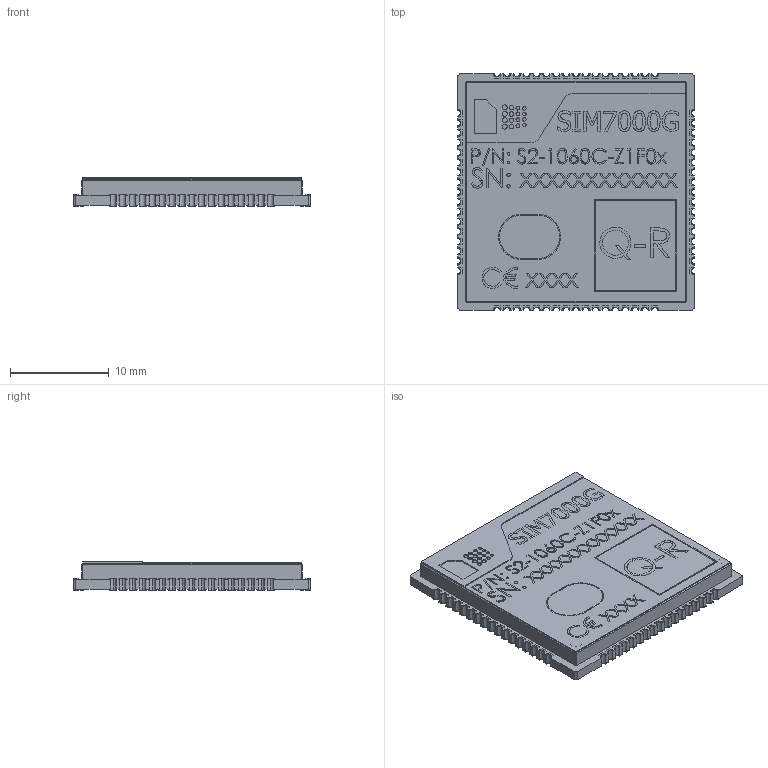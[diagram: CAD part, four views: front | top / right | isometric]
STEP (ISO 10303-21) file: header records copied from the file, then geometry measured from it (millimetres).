
FILE_DESCRIPTION (( 'STEP AP214' ), '1' );
FILE_NAME ('77BC8E6E-5317-4C84-BBC3-6F65EE396B72.STEP', '2023-10-31T23:36:34', ( '' ), ( '' ), 'SwSTEP 2.0', 'SolidWorks 2022', '' );
FILE_SCHEMA (( 'AUTOMOTIVE_DESIGN' ));
Length unit declared in the file: millimetre
Products named in the file (1): 77BC8E6E-5317-4C84-BBC3-6F65EE396B72
Bounding box: 24 x 24 x 2.9 mm (x, y, z)
Volume: 1425.3 mm3; surface area: 1462.3 mm2
Topology: 1 solids, 4 shells, 1621 faces, 4692 edges, 3163 vertices
Faces by surface type: plane 1071, cylinder 411, bspline 139
Entity records: 69336 total; most frequent: CARTESIAN_POINT 18834, ORIENTED_EDGE 9384, DIRECTION 8132, EDGE_CURVE 4692, VECTOR 3522, LINE 3522, VERTEX_POINT 3163, AXIS2_PLACEMENT_3D 2305
